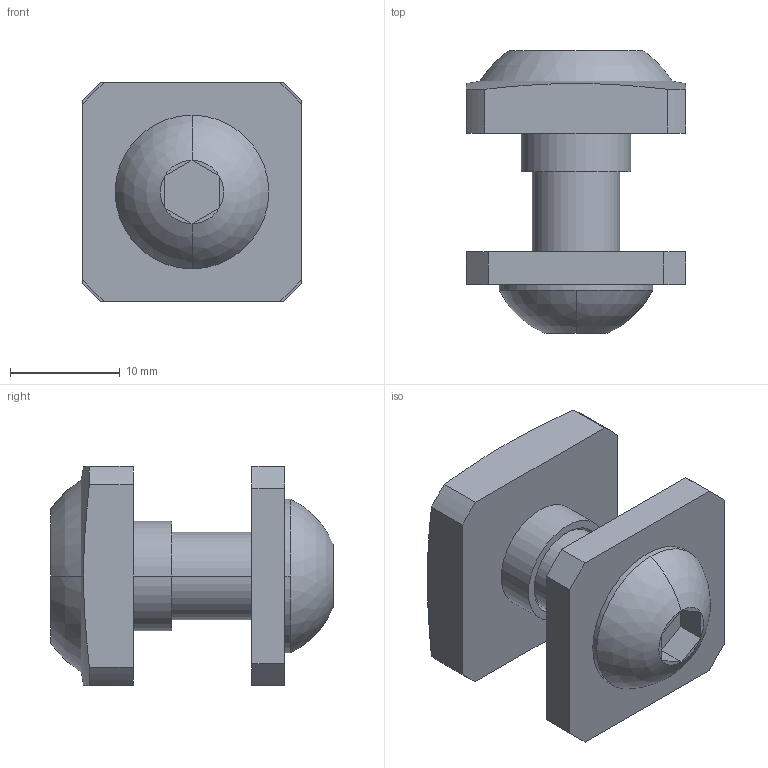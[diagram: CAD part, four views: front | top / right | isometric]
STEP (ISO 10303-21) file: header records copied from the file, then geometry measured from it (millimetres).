
FILE_DESCRIPTION((''),'2;1');
FILE_NAME('KL003_ASM','2002-12-27T',('Lipro doo'),('Lipro d.o.o.'),'PRO/ENGINEER BY PARAMETRIC TECHNOLOGY CORPORATION, 2001150','PRO/ENGINEER BY PARAMETRIC TECHNOLOGY CORPORATION, 2001150','');
FILE_SCHEMA(('CONFIG_CONTROL_DESIGN'));
Length unit declared in the file: millimetre
Products named in the file (4): VTBEI0820; ROQ0810S; DAQ0810; KL003_ASM
Assembly tree (3 placements, depth 2):
  KL003_ASM
    VTBEI0820
    ROQ0810S
    DAQ0810
Bounding box: 20 x 25.7 x 20 mm (x, y, z)
Volume: 4631.1 mm3; surface area: 4048.8 mm2
Topology: 3 solids, 5 shells, 60 faces, 136 edges, 84 vertices
Faces by surface type: plane 32, cylinder 18, cone 6, sphere 4
Entity records: 1856 total; most frequent: CARTESIAN_POINT 339, DIRECTION 328, ORIENTED_EDGE 264, EDGE_CURVE 136, AXIS2_PLACEMENT_3D 127, VERTEX_POINT 84, VECTOR 74, LINE 74
